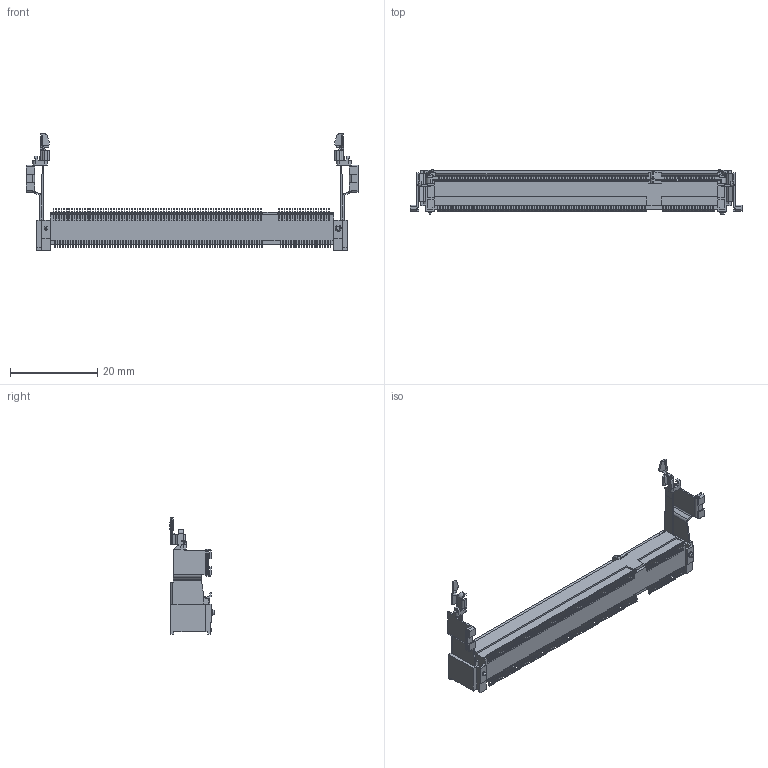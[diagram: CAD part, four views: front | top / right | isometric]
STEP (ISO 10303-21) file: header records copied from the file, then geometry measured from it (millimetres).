
FILE_DESCRIPTION((''),'2;1');
FILE_NAME('C-1612618-4','2015-06-03T',('workeradm'),('Tyco Electronics Ltd.'),'PRO/ENGINEER BY PARAMETRIC TECHNOLOGY CORPORATION, 2014090','PRO/ENGINEER BY PARAMETRIC TECHNOLOGY CORPORATION, 2014090','');
FILE_SCHEMA(('AUTOMOTIVE_DESIGN { 1 0 10303 214 1 1 1 1 }'));
Products named in the file (1): C-1612618-4
Bounding box: 75.9 x 10.13 x 26.56 mm (x, y, z)
Volume: 4006.2 mm3; surface area: 4193.3 mm2
Topology: 3 solids, 3 shells, 4208 faces, 12135 edges, 7935 vertices
Faces by surface type: plane 3599, cylinder 587, bspline 16, cone 4, torus 2
Entity records: 136840 total; most frequent: CARTESIAN_POINT 25403, ORIENTED_EDGE 24270, DIRECTION 21650, EDGE_CURVE 12135, VECTOR 10930, LINE 10930, VERTEX_POINT 7935, AXIS2_PLACEMENT_3D 5360
